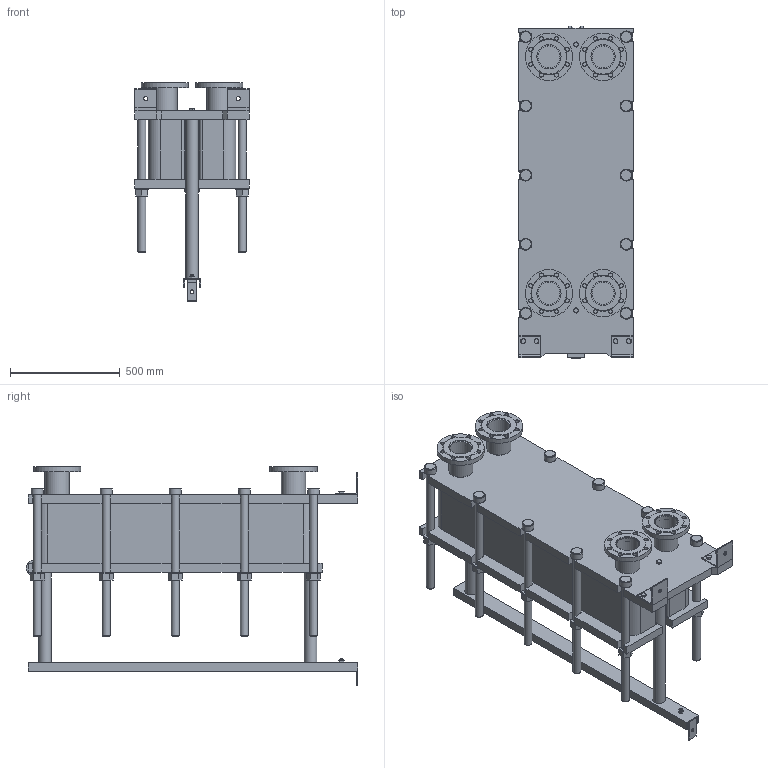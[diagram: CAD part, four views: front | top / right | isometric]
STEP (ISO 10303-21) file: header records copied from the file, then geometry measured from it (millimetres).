
FILE_DESCRIPTION(/* description */ (''),/* implementation_level */ '2;1');
FILE_NAME(/* name */ 'C:\Users\zhuro\Desktop\ENCO\TO\ЭН-04\ЭН-0,5-04-79-1.stp',/* time_stamp */ '2022-06-06T10:51:39+03:00',/* author */ ('zhuro'),/* organization */ (''),/* preprocessor_version */ 'ST-DEVELOPER v18.1',/* originating_system */ 'Autodesk Inventor 2022',/* authorisation */ '');
FILE_SCHEMA (('AUTOMOTIVE_DESIGN { 1 0 10303 214 3 1 1 }'));
Length unit declared in the file: millimetre
Products named in the file (1): ЭН-0,5-04-79-1
Bounding box: 520 x 1510 x 999.5 mm (x, y, z)
Volume: 206283901.7 mm3; surface area: 7893470 mm2
Topology: 45 solids, 45 shells, 668 faces, 1611 edges, 1048 vertices
Faces by surface type: plane 457, cylinder 166, cone 39, torus 6
Full cylindrical faces by diameter (mm): 8 x4, 10 x2, 16 x8, 18 x35, 36 x25, 40 x2, 42 x1, 45 x4, 54 x10, 57 x2, 60 x10, 68 x2, 100 x4, 110 x8, 215 x4
Entity records: 23607 total; most frequent: CARTESIAN_POINT 7348, DIRECTION 3371, ORIENTED_EDGE 3142, EDGE_CURVE 1571, AXIS2_PLACEMENT_3D 1199, VERTEX_POINT 1044, LINE 973, VECTOR 973
